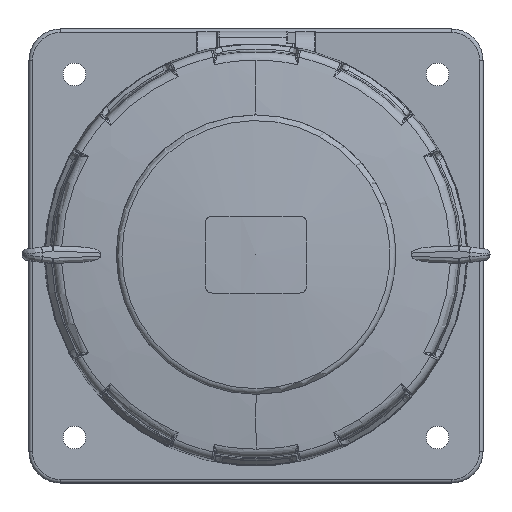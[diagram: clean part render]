
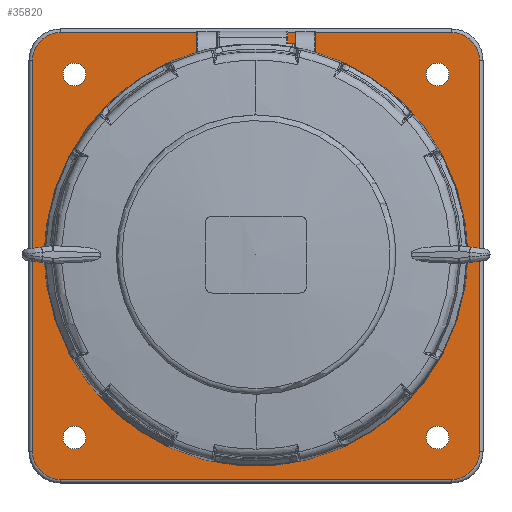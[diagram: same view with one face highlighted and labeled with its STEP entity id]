
A CAD part, top view. The second image highlights one B-rep face of the part: STEP entity #35820.
In plain terms, the highlighted planar face has unit normal (0, 0, 1).
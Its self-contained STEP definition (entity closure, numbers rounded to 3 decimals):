
#35820 = ADVANCED_FACE('',(#35821,#35891,#35911,#35931,#35951,#35971),
  #35991,.F.);
#35821 = FACE_BOUND('',#35822,.T.);
#35822 = EDGE_LOOP('',(#35823,#35833,#35842,#35850,#35859,#35867,#35876,
    #35884));
#35823 = ORIENTED_EDGE('',*,*,#35824,.T.);
#35824 = EDGE_CURVE('',#35825,#35827,#35829,.T.);
#35825 = VERTEX_POINT('',#35826);
#35826 = CARTESIAN_POINT('',(56.,64.,-17.2));
#35827 = VERTEX_POINT('',#35828);
#35828 = CARTESIAN_POINT('',(-56.,64.,-17.2));
#35829 = LINE('',#35830,#35831);
#35830 = CARTESIAN_POINT('',(56.,64.,-17.2));
#35831 = VECTOR('',#35832,1.);
#35832 = DIRECTION('',(-1.,0.,0.));
#35833 = ORIENTED_EDGE('',*,*,#35834,.T.);
#35834 = EDGE_CURVE('',#35827,#35835,#35837,.T.);
#35835 = VERTEX_POINT('',#35836);
#35836 = CARTESIAN_POINT('',(-64.,56.,-17.2));
#35837 = CIRCLE('',#35838,8.);
#35838 = AXIS2_PLACEMENT_3D('',#35839,#35840,#35841);
#35839 = CARTESIAN_POINT('',(-56.,56.,-17.2));
#35840 = DIRECTION('',(0.,-0.,1.));
#35841 = DIRECTION('',(0.,1.,0.));
#35842 = ORIENTED_EDGE('',*,*,#35843,.T.);
#35843 = EDGE_CURVE('',#35835,#35844,#35846,.T.);
#35844 = VERTEX_POINT('',#35845);
#35845 = CARTESIAN_POINT('',(-64.,-56.,-17.2));
#35846 = LINE('',#35847,#35848);
#35847 = CARTESIAN_POINT('',(-64.,56.,-17.2));
#35848 = VECTOR('',#35849,1.);
#35849 = DIRECTION('',(0.,-1.,0.));
#35850 = ORIENTED_EDGE('',*,*,#35851,.T.);
#35851 = EDGE_CURVE('',#35844,#35852,#35854,.T.);
#35852 = VERTEX_POINT('',#35853);
#35853 = CARTESIAN_POINT('',(-56.,-64.,-17.2));
#35854 = CIRCLE('',#35855,8.);
#35855 = AXIS2_PLACEMENT_3D('',#35856,#35857,#35858);
#35856 = CARTESIAN_POINT('',(-56.,-56.,-17.2));
#35857 = DIRECTION('',(0.,0.,1.));
#35858 = DIRECTION('',(-1.,0.,0.));
#35859 = ORIENTED_EDGE('',*,*,#35860,.T.);
#35860 = EDGE_CURVE('',#35852,#35861,#35863,.T.);
#35861 = VERTEX_POINT('',#35862);
#35862 = CARTESIAN_POINT('',(56.,-64.,-17.2));
#35863 = LINE('',#35864,#35865);
#35864 = CARTESIAN_POINT('',(-56.,-64.,-17.2));
#35865 = VECTOR('',#35866,1.);
#35866 = DIRECTION('',(1.,0.,0.));
#35867 = ORIENTED_EDGE('',*,*,#35868,.T.);
#35868 = EDGE_CURVE('',#35861,#35869,#35871,.T.);
#35869 = VERTEX_POINT('',#35870);
#35870 = CARTESIAN_POINT('',(64.,-56.,-17.2));
#35871 = CIRCLE('',#35872,8.);
#35872 = AXIS2_PLACEMENT_3D('',#35873,#35874,#35875);
#35873 = CARTESIAN_POINT('',(56.,-56.,-17.2));
#35874 = DIRECTION('',(0.,0.,1.));
#35875 = DIRECTION('',(0.,-1.,0.));
#35876 = ORIENTED_EDGE('',*,*,#35877,.T.);
#35877 = EDGE_CURVE('',#35869,#35878,#35880,.T.);
#35878 = VERTEX_POINT('',#35879);
#35879 = CARTESIAN_POINT('',(64.,56.,-17.2));
#35880 = LINE('',#35881,#35882);
#35881 = CARTESIAN_POINT('',(64.,-56.,-17.2));
#35882 = VECTOR('',#35883,1.);
#35883 = DIRECTION('',(0.,1.,0.));
#35884 = ORIENTED_EDGE('',*,*,#35885,.T.);
#35885 = EDGE_CURVE('',#35878,#35825,#35886,.T.);
#35886 = CIRCLE('',#35887,8.);
#35887 = AXIS2_PLACEMENT_3D('',#35888,#35889,#35890);
#35888 = CARTESIAN_POINT('',(56.,56.,-17.2));
#35889 = DIRECTION('',(0.,0.,1.));
#35890 = DIRECTION('',(1.,0.,-0.));
#35891 = FACE_BOUND('',#35892,.T.);
#35892 = EDGE_LOOP('',(#35893,#35904));
#35893 = ORIENTED_EDGE('',*,*,#35894,.T.);
#35894 = EDGE_CURVE('',#35895,#35897,#35899,.T.);
#35895 = VERTEX_POINT('',#35896);
#35896 = CARTESIAN_POINT('',(52.,55.25,-17.2));
#35897 = VERTEX_POINT('',#35898);
#35898 = CARTESIAN_POINT('',(52.,48.75,-17.2));
#35899 = CIRCLE('',#35900,3.25);
#35900 = AXIS2_PLACEMENT_3D('',#35901,#35902,#35903);
#35901 = CARTESIAN_POINT('',(52.,52.,-17.2));
#35902 = DIRECTION('',(0.,0.,-1.));
#35903 = DIRECTION('',(0.,1.,0.));
#35904 = ORIENTED_EDGE('',*,*,#35905,.T.);
#35905 = EDGE_CURVE('',#35897,#35895,#35906,.T.);
#35906 = CIRCLE('',#35907,3.25);
#35907 = AXIS2_PLACEMENT_3D('',#35908,#35909,#35910);
#35908 = CARTESIAN_POINT('',(52.,52.,-17.2));
#35909 = DIRECTION('',(0.,0.,-1.));
#35910 = DIRECTION('',(0.,-1.,0.));
#35911 = FACE_BOUND('',#35912,.T.);
#35912 = EDGE_LOOP('',(#35913,#35924));
#35913 = ORIENTED_EDGE('',*,*,#35914,.T.);
#35914 = EDGE_CURVE('',#35915,#35917,#35919,.T.);
#35915 = VERTEX_POINT('',#35916);
#35916 = CARTESIAN_POINT('',(52.,-48.75,-17.2));
#35917 = VERTEX_POINT('',#35918);
#35918 = CARTESIAN_POINT('',(52.,-55.25,-17.2));
#35919 = CIRCLE('',#35920,3.25);
#35920 = AXIS2_PLACEMENT_3D('',#35921,#35922,#35923);
#35921 = CARTESIAN_POINT('',(52.,-52.,-17.2));
#35922 = DIRECTION('',(0.,0.,-1.));
#35923 = DIRECTION('',(0.,1.,0.));
#35924 = ORIENTED_EDGE('',*,*,#35925,.T.);
#35925 = EDGE_CURVE('',#35917,#35915,#35926,.T.);
#35926 = CIRCLE('',#35927,3.25);
#35927 = AXIS2_PLACEMENT_3D('',#35928,#35929,#35930);
#35928 = CARTESIAN_POINT('',(52.,-52.,-17.2));
#35929 = DIRECTION('',(0.,0.,-1.));
#35930 = DIRECTION('',(0.,-1.,0.));
#35931 = FACE_BOUND('',#35932,.T.);
#35932 = EDGE_LOOP('',(#35933,#35944));
#35933 = ORIENTED_EDGE('',*,*,#35934,.T.);
#35934 = EDGE_CURVE('',#35935,#35937,#35939,.T.);
#35935 = VERTEX_POINT('',#35936);
#35936 = CARTESIAN_POINT('',(-52.,55.25,-17.2));
#35937 = VERTEX_POINT('',#35938);
#35938 = CARTESIAN_POINT('',(-52.,48.75,-17.2));
#35939 = CIRCLE('',#35940,3.25);
#35940 = AXIS2_PLACEMENT_3D('',#35941,#35942,#35943);
#35941 = CARTESIAN_POINT('',(-52.,52.,-17.2));
#35942 = DIRECTION('',(0.,0.,-1.));
#35943 = DIRECTION('',(0.,1.,0.));
#35944 = ORIENTED_EDGE('',*,*,#35945,.T.);
#35945 = EDGE_CURVE('',#35937,#35935,#35946,.T.);
#35946 = CIRCLE('',#35947,3.25);
#35947 = AXIS2_PLACEMENT_3D('',#35948,#35949,#35950);
#35948 = CARTESIAN_POINT('',(-52.,52.,-17.2));
#35949 = DIRECTION('',(0.,0.,-1.));
#35950 = DIRECTION('',(0.,-1.,0.));
#35951 = FACE_BOUND('',#35952,.T.);
#35952 = EDGE_LOOP('',(#35953,#35964));
#35953 = ORIENTED_EDGE('',*,*,#35954,.T.);
#35954 = EDGE_CURVE('',#35955,#35957,#35959,.T.);
#35955 = VERTEX_POINT('',#35956);
#35956 = CARTESIAN_POINT('',(-52.,-48.75,-17.2));
#35957 = VERTEX_POINT('',#35958);
#35958 = CARTESIAN_POINT('',(-52.,-55.25,-17.2));
#35959 = CIRCLE('',#35960,3.25);
#35960 = AXIS2_PLACEMENT_3D('',#35961,#35962,#35963);
#35961 = CARTESIAN_POINT('',(-52.,-52.,-17.2));
#35962 = DIRECTION('',(0.,0.,-1.));
#35963 = DIRECTION('',(0.,1.,0.));
#35964 = ORIENTED_EDGE('',*,*,#35965,.T.);
#35965 = EDGE_CURVE('',#35957,#35955,#35966,.T.);
#35966 = CIRCLE('',#35967,3.25);
#35967 = AXIS2_PLACEMENT_3D('',#35968,#35969,#35970);
#35968 = CARTESIAN_POINT('',(-52.,-52.,-17.2));
#35969 = DIRECTION('',(0.,0.,-1.));
#35970 = DIRECTION('',(0.,-1.,0.));
#35971 = FACE_BOUND('',#35972,.T.);
#35972 = EDGE_LOOP('',(#35973,#35984));
#35973 = ORIENTED_EDGE('',*,*,#35974,.T.);
#35974 = EDGE_CURVE('',#35975,#35977,#35979,.T.);
#35975 = VERTEX_POINT('',#35976);
#35976 = CARTESIAN_POINT('',(-58.,0.,-17.2));
#35977 = VERTEX_POINT('',#35978);
#35978 = CARTESIAN_POINT('',(58.,0.,-17.2));
#35979 = CIRCLE('',#35980,58.);
#35980 = AXIS2_PLACEMENT_3D('',#35981,#35982,#35983);
#35981 = CARTESIAN_POINT('',(0.,0.,-17.2));
#35982 = DIRECTION('',(0.,0.,-1.));
#35983 = DIRECTION('',(-1.,0.,0.));
#35984 = ORIENTED_EDGE('',*,*,#35985,.T.);
#35985 = EDGE_CURVE('',#35977,#35975,#35986,.T.);
#35986 = CIRCLE('',#35987,58.);
#35987 = AXIS2_PLACEMENT_3D('',#35988,#35989,#35990);
#35988 = CARTESIAN_POINT('',(0.,0.,-17.2));
#35989 = DIRECTION('',(0.,0.,-1.));
#35990 = DIRECTION('',(1.,0.,0.));
#35991 = PLANE('',#35992);
#35992 = AXIS2_PLACEMENT_3D('',#35993,#35994,#35995);
#35993 = CARTESIAN_POINT('',(0.,0.,-17.2));
#35994 = DIRECTION('',(0.,0.,-1.));
#35995 = DIRECTION('',(-1.,0.,0.));
